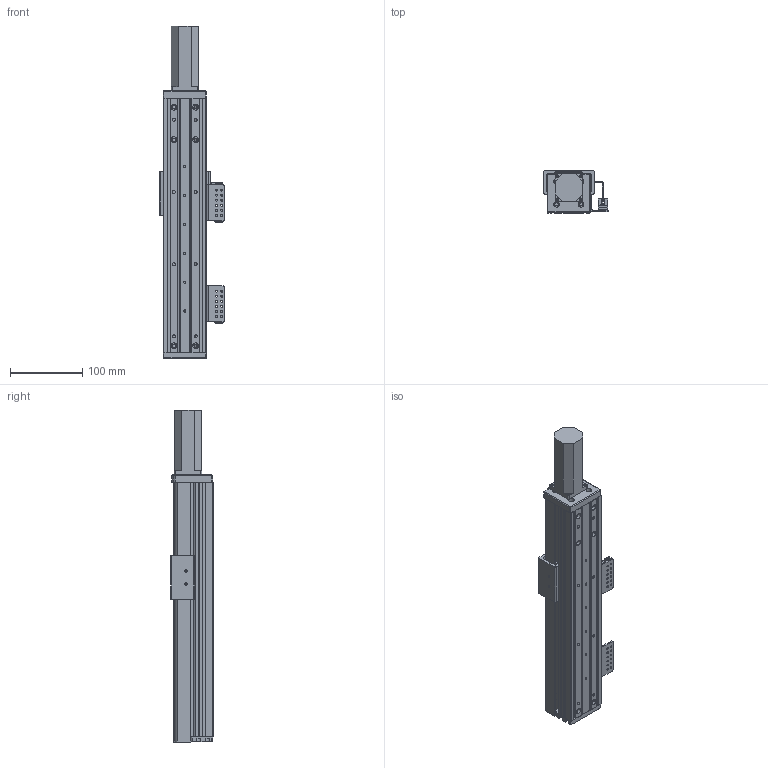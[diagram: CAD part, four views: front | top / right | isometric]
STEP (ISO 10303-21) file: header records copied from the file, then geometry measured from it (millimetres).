
FILE_DESCRIPTION (( 'STEP AP203' ), '1' );
FILE_NAME ('RY60FB-L1210-300-MK.SLDASM_150.step', '2021-02-22T08:25:28', ( '盈信电脑' ), ( '东莞市道滘镇水果街19号' ), 'SwSTEP 2.0', 'SolidWorks 2012', '' );
FILE_SCHEMA (( 'CONFIG_CONTROL_DESIGN' ));
Length unit declared in the file: millimetre
Products named in the file (14): RY60FB-674嫖萇耀輸; RY60FB-L1210-300-MK.SLDASM_150; RY80俋离覜茼え; RY60FB綴裔啣; 覜茼ん674; RY60FB-感应器674光电安装座; 滅袉蝶18-10; 侂狟100W; RY60FB-300-奻裔-MK_150; RY60FB前盖板100(M3); RY60FB-臏賑輸; RY60FB-300-菁釱-MK_150; 滅袉蝶18-20
Assembly tree (18 placements, depth 3):
  RY60FB-L1210-300-MK.SLDASM_150
    RY60FB-300-菁釱-MK_150
    RY60FB-臏賑輸
    滅袉蝶18-20  x2
    滅袉蝶18-10  x2
    RY60FB-300-奻裔-MK_150
    RY60FB前盖板100(M3)
    侂狟100W
    RY60FB綴裔啣
    RY60FB-674嫖萇耀輸
      RY60FB-感应器674光电安装座
      覜茼ん674  x2
    RY80俋离覜茼え
    RY60FB-674嫖萇耀輸
      RY60FB-感应器674光电安装座
      覜茼ん674
Bounding box: 90 x 58.5 x 460 mm (x, y, z)
Volume: 572645.8 mm3; surface area: 291470.5 mm2
Topology: 16 solids, 16 shells, 941 faces, 2590 edges, 1671 vertices
Faces by surface type: plane 474, cylinder 400, cone 67
Entity records: 26250 total; most frequent: CARTESIAN_POINT 4937, DIRECTION 4164, ORIENTED_EDGE 4080, EDGE_CURVE 2040, AXIS2_PLACEMENT_3D 1458, VERTEX_POINT 1327, VECTOR 1248, LINE 1248
